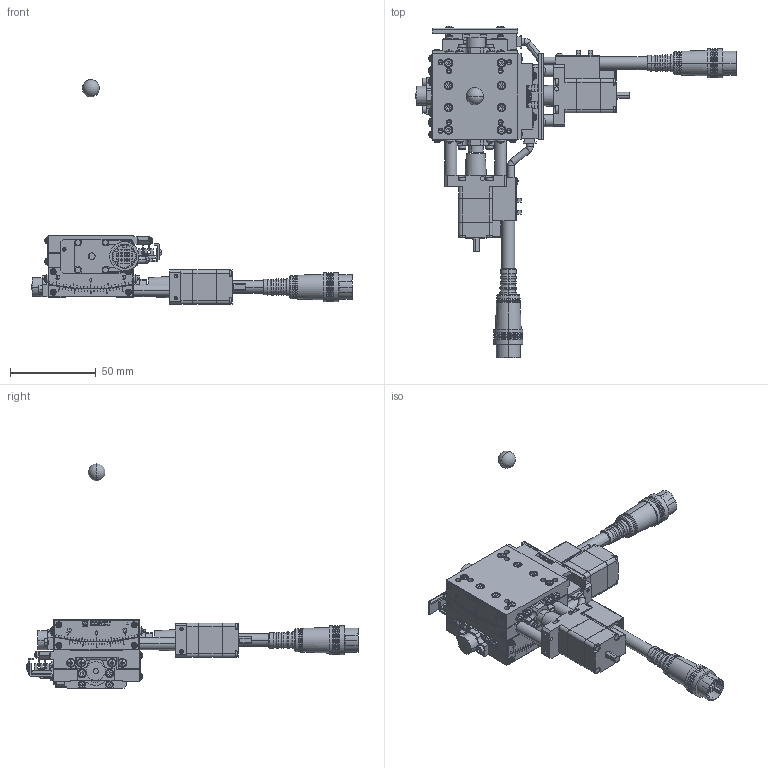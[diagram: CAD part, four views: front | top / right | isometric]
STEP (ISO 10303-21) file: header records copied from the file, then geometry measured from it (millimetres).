
FILE_DESCRIPTION( (''), '2;1');
FILE_NAME ('SA05A-R2BG01.stp','2022-01-24T17:31:49',(''),(''),'spGate 17.5.5','','');
FILE_SCHEMA (('AUTOMOTIVE_DESIGN'));
Length unit declared in the file: millimetre
Products named in the file (9): Assembly; SA05A-R2BG01-prt0; SA05A-R2BG01-prt1; SA05A-R2BG01-prt2; SA05A-R2BG01-prt3; SA05A-R2BG01-prt4; SA05A-R2BG01-prt5; SA05A-R2BG01-prt6; SA05A-R2BG01-prt7
Assembly tree (8 placements, depth 2):
  Assembly
    SA05A-R2BG01-prt0
    SA05A-R2BG01-prt1
    SA05A-R2BG01-prt2
    SA05A-R2BG01-prt3
    SA05A-R2BG01-prt4
    SA05A-R2BG01-prt5
    SA05A-R2BG01-prt6
    SA05A-R2BG01-prt7
Bounding box: 187 x 193.68 x 131 mm (x, y, z)
Volume: 153065.3 mm3; surface area: 76296.9 mm2
Topology: 8 solids, 18 shells, 4572 faces, 11395 edges, 7051 vertices
Faces by surface type: plane 2930, cylinder 916, bspline 628, sphere 98
Entity records: 231990 total; most frequent: CARTESIAN_POINT 35473, ORIENTED_EDGE 22470, DIRECTION 20982, COLOUR_RGB 15815, PRESENTATION_STYLE_ASSIGNMENT 15815, STYLED_ITEM 15815, EDGE_CURVE 11235, DRAUGHTING_PRE_DEFINED_CURVE_FONT 11235
